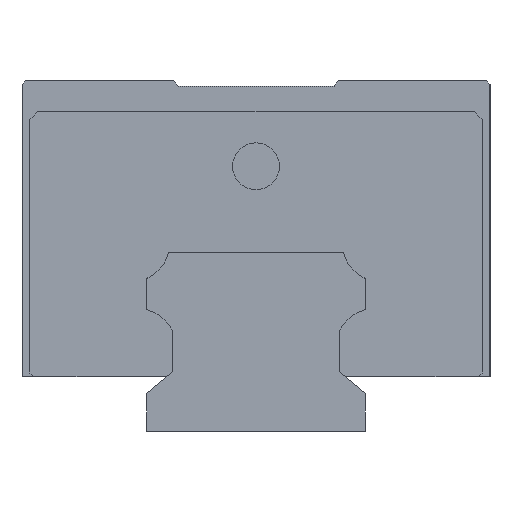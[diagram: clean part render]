
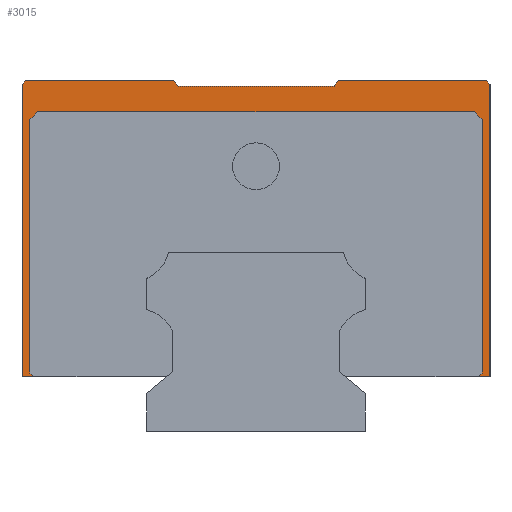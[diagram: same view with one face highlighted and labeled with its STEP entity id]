
A CAD part, left-side view. The second image highlights one B-rep face of the part: STEP entity #3015.
In plain terms, the highlighted planar face has unit normal (-1, 0, 0).
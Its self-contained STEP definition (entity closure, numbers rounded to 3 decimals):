
#2 = CARTESIAN_POINT ( 'NONE',  ( -34.65, -10., 44.25 ) ) ;
#45 = CARTESIAN_POINT ( 'NONE',  ( -34.65, -30., 44.5 ) ) ;
#93 = ORIENTED_EDGE ( 'NONE', *, *, #3689, .F. ) ;
#99 = LINE ( 'NONE', #4573, #1532 ) ;
#205 = CARTESIAN_POINT ( 'NONE',  ( -34.65, 28., 41. ) ) ;
#244 = VERTEX_POINT ( 'NONE', #2803 ) ;
#308 = LINE ( 'NONE', #1243, #2023 ) ;
#332 = ORIENTED_EDGE ( 'NONE', *, *, #2957, .T. ) ;
#348 = DIRECTION ( 'NONE',  ( 0., 1., 0. ) ) ;
#362 = CARTESIAN_POINT ( 'NONE',  ( -34.65, 10.629, 45. ) ) ;
#483 = VERTEX_POINT ( 'NONE', #3205 ) ;
#521 = VERTEX_POINT ( 'NONE', #4234 ) ;
#530 = ORIENTED_EDGE ( 'NONE', *, *, #5814, .T. ) ;
#540 = ORIENTED_EDGE ( 'NONE', *, *, #5089, .T. ) ;
#582 = LINE ( 'NONE', #2388, #3315 ) ;
#620 = EDGE_CURVE ( 'NONE', #244, #1133, #680, .T. ) ;
#632 = DIRECTION ( 'NONE',  ( 0., 0.707, -0.707 ) ) ;
#680 = LINE ( 'NONE', #710, #751 ) ;
#710 = CARTESIAN_POINT ( 'NONE',  ( -34.65, -30., 7. ) ) ;
#720 = EDGE_LOOP ( 'NONE', ( #4082, #4895, #332, #3483, #1937, #530, #3716, #3367, #770, #93, #5647, #2846, #5039, #2797, #540, #2548, #4869, #4204 ) ) ;
#751 = VECTOR ( 'NONE', #2919, 1000. ) ;
#770 = ORIENTED_EDGE ( 'NONE', *, *, #620, .F. ) ;
#809 = CARTESIAN_POINT ( 'NONE',  ( -34.65, -10.629, 45. ) ) ;
#828 = CARTESIAN_POINT ( 'NONE',  ( -34.65, 29., 7.5 ) ) ;
#836 = DIRECTION ( 'NONE',  ( 0., 0.707, -0.707 ) ) ;
#885 = VECTOR ( 'NONE', #5692, 1000. ) ;
#894 = EDGE_CURVE ( 'NONE', #3147, #1133, #5507, .T. ) ;
#947 = FACE_OUTER_BOUND ( 'NONE', #720, .T. ) ;
#969 = DIRECTION ( 'NONE',  ( 0., 0.707, 0.707 ) ) ;
#998 = VERTEX_POINT ( 'NONE', #809 ) ;
#1050 = VERTEX_POINT ( 'NONE', #5246 ) ;
#1054 = VERTEX_POINT ( 'NONE', #3899 ) ;
#1133 = VERTEX_POINT ( 'NONE', #3191 ) ;
#1243 = CARTESIAN_POINT ( 'NONE',  ( -34.65, 30., 45. ) ) ;
#1286 = CARTESIAN_POINT ( 'NONE',  ( -34.65, 28.5, 7. ) ) ;
#1356 = DIRECTION ( 'NONE',  ( 0., 0., -1. ) ) ;
#1429 = LINE ( 'NONE', #4612, #3883 ) ;
#1433 = CARTESIAN_POINT ( 'NONE',  ( -34.65, -28., 41. ) ) ;
#1484 = CARTESIAN_POINT ( 'NONE',  ( -34.65, 29., 40. ) ) ;
#1532 = VECTOR ( 'NONE', #3662, 1000. ) ;
#1937 = ORIENTED_EDGE ( 'NONE', *, *, #2223, .T. ) ;
#1943 = DIRECTION ( 'NONE',  ( 0., 1., 0. ) ) ;
#2019 = VERTEX_POINT ( 'NONE', #2179 ) ;
#2023 = VECTOR ( 'NONE', #4857, 1000. ) ;
#2099 = DIRECTION ( 'NONE',  ( 0., 0., -1. ) ) ;
#2158 = VERTEX_POINT ( 'NONE', #1433 ) ;
#2171 = CARTESIAN_POINT ( 'NONE',  ( -34.65, -29., 7.5 ) ) ;
#2179 = CARTESIAN_POINT ( 'NONE',  ( -34.65, 30., 7. ) ) ;
#2223 = EDGE_CURVE ( 'NONE', #2971, #2158, #3827, .T. ) ;
#2254 = CARTESIAN_POINT ( 'NONE',  ( -34.65, -29., 40. ) ) ;
#2361 = VERTEX_POINT ( 'NONE', #1286 ) ;
#2388 = CARTESIAN_POINT ( 'NONE',  ( -34.65, 30., 7. ) ) ;
#2504 = LINE ( 'NONE', #2566, #3962 ) ;
#2548 = ORIENTED_EDGE ( 'NONE', *, *, #5516, .F. ) ;
#2566 = CARTESIAN_POINT ( 'NONE',  ( -34.65, -30., 45. ) ) ;
#2710 = DIRECTION ( 'NONE',  ( 0., 0., 1. ) ) ;
#2797 = ORIENTED_EDGE ( 'NONE', *, *, #3728, .T. ) ;
#2803 = CARTESIAN_POINT ( 'NONE',  ( -34.65, -30., 7. ) ) ;
#2846 = ORIENTED_EDGE ( 'NONE', *, *, #5589, .F. ) ;
#2900 = LINE ( 'NONE', #3841, #3417 ) ;
#2919 = DIRECTION ( 'NONE',  ( 0., 1., 0. ) ) ;
#2926 = LINE ( 'NONE', #3267, #5010 ) ;
#2935 = VECTOR ( 'NONE', #5234, 1000. ) ;
#2957 = EDGE_CURVE ( 'NONE', #1054, #4015, #3563, .T. ) ;
#2966 = VECTOR ( 'NONE', #4566, 1000. ) ;
#2971 = VERTEX_POINT ( 'NONE', #4937 ) ;
#2997 = VERTEX_POINT ( 'NONE', #2 ) ;
#3015 = ADVANCED_FACE ( 'NONE', ( #947 ), #3213, .F. ) ;
#3051 = DIRECTION ( 'NONE',  ( 0., 0., 1. ) ) ;
#3147 = VERTEX_POINT ( 'NONE', #2171 ) ;
#3191 = CARTESIAN_POINT ( 'NONE',  ( -34.65, -28.5, 7. ) ) ;
#3205 = CARTESIAN_POINT ( 'NONE',  ( -34.65, -29., 40. ) ) ;
#3213 = PLANE ( 'NONE',  #3825 ) ;
#3244 = VERTEX_POINT ( 'NONE', #362 ) ;
#3267 = CARTESIAN_POINT ( 'NONE',  ( -34.65, -28., 41. ) ) ;
#3311 = CARTESIAN_POINT ( 'NONE',  ( -34.65, -29., 7.5 ) ) ;
#3315 = VECTOR ( 'NONE', #3051, 1000. ) ;
#3367 = ORIENTED_EDGE ( 'NONE', *, *, #894, .T. ) ;
#3417 = VECTOR ( 'NONE', #4722, 1000. ) ;
#3440 = EDGE_CURVE ( 'NONE', #998, #2997, #5590, .T. ) ;
#3455 = LINE ( 'NONE', #5245, #5295 ) ;
#3483 = ORIENTED_EDGE ( 'NONE', *, *, #5705, .T. ) ;
#3487 = CARTESIAN_POINT ( 'NONE',  ( -34.65, 30., 45. ) ) ;
#3502 = VECTOR ( 'NONE', #969, 1000. ) ;
#3563 = LINE ( 'NONE', #828, #5131 ) ;
#3662 = DIRECTION ( 'NONE',  ( 0., 0.643, 0.766 ) ) ;
#3664 = CARTESIAN_POINT ( 'NONE',  ( -34.65, -29.5, 45. ) ) ;
#3689 = EDGE_CURVE ( 'NONE', #5333, #244, #2504, .T. ) ;
#3702 = LINE ( 'NONE', #4960, #3502 ) ;
#3716 = ORIENTED_EDGE ( 'NONE', *, *, #4375, .T. ) ;
#3728 = EDGE_CURVE ( 'NONE', #2997, #521, #4352, .T. ) ;
#3825 = AXIS2_PLACEMENT_3D ( 'NONE', #5495, #4564, #1943 ) ;
#3827 = LINE ( 'NONE', #205, #5156 ) ;
#3841 = CARTESIAN_POINT ( 'NONE',  ( -34.65, -30., 44.5 ) ) ;
#3883 = VECTOR ( 'NONE', #5457, 1000. ) ;
#3899 = CARTESIAN_POINT ( 'NONE',  ( -34.65, 29., 7.5 ) ) ;
#3962 = VECTOR ( 'NONE', #2099, 1000. ) ;
#3967 = CARTESIAN_POINT ( 'NONE',  ( -34.65, -10., 44.25 ) ) ;
#3988 = CARTESIAN_POINT ( 'NONE',  ( -34.65, 30., 44.5 ) ) ;
#4015 = VERTEX_POINT ( 'NONE', #1484 ) ;
#4082 = ORIENTED_EDGE ( 'NONE', *, *, #4688, .F. ) ;
#4178 = EDGE_CURVE ( 'NONE', #2019, #5575, #582, .T. ) ;
#4204 = ORIENTED_EDGE ( 'NONE', *, *, #4178, .F. ) ;
#4234 = CARTESIAN_POINT ( 'NONE',  ( -34.65, 10., 44.25 ) ) ;
#4352 = LINE ( 'NONE', #3967, #4614 ) ;
#4375 = EDGE_CURVE ( 'NONE', #483, #3147, #5436, .T. ) ;
#4564 = DIRECTION ( 'NONE',  ( 1., 0., 0. ) ) ;
#4566 = DIRECTION ( 'NONE',  ( 0., -0.707, 0.707 ) ) ;
#4573 = CARTESIAN_POINT ( 'NONE',  ( -34.65, 10., 44.25 ) ) ;
#4612 = CARTESIAN_POINT ( 'NONE',  ( -34.65, 11.769, 7. ) ) ;
#4614 = VECTOR ( 'NONE', #348, 1000. ) ;
#4653 = DIRECTION ( 'NONE',  ( 0., -0.707, -0.707 ) ) ;
#4688 = EDGE_CURVE ( 'NONE', #2361, #2019, #1429, .T. ) ;
#4708 = DIRECTION ( 'NONE',  ( 0., -1., 0. ) ) ;
#4722 = DIRECTION ( 'NONE',  ( 0., 0.707, 0.707 ) ) ;
#4777 = EDGE_CURVE ( 'NONE', #2361, #1054, #3702, .T. ) ;
#4857 = DIRECTION ( 'NONE',  ( 0., -1., 0. ) ) ;
#4869 = ORIENTED_EDGE ( 'NONE', *, *, #5599, .T. ) ;
#4895 = ORIENTED_EDGE ( 'NONE', *, *, #4777, .T. ) ;
#4937 = CARTESIAN_POINT ( 'NONE',  ( -34.65, 28., 41. ) ) ;
#4944 = CARTESIAN_POINT ( 'NONE',  ( -34.65, 29., 40. ) ) ;
#4960 = CARTESIAN_POINT ( 'NONE',  ( -34.65, 28.5, 7. ) ) ;
#5010 = VECTOR ( 'NONE', #4653, 1000. ) ;
#5039 = ORIENTED_EDGE ( 'NONE', *, *, #3440, .T. ) ;
#5064 = VERTEX_POINT ( 'NONE', #3664 ) ;
#5089 = EDGE_CURVE ( 'NONE', #521, #3244, #99, .T. ) ;
#5131 = VECTOR ( 'NONE', #2710, 1000. ) ;
#5156 = VECTOR ( 'NONE', #4708, 1000. ) ;
#5234 = DIRECTION ( 'NONE',  ( 0., 0.643, -0.766 ) ) ;
#5245 = CARTESIAN_POINT ( 'NONE',  ( -34.65, 29.5, 45. ) ) ;
#5246 = CARTESIAN_POINT ( 'NONE',  ( -34.65, 29.5, 45. ) ) ;
#5252 = VECTOR ( 'NONE', #632, 1000. ) ;
#5266 = CARTESIAN_POINT ( 'NONE',  ( -34.65, -10.629, 45. ) ) ;
#5295 = VECTOR ( 'NONE', #836, 1000. ) ;
#5333 = VERTEX_POINT ( 'NONE', #45 ) ;
#5345 = EDGE_CURVE ( 'NONE', #5333, #5064, #2900, .T. ) ;
#5386 = LINE ( 'NONE', #4944, #2966 ) ;
#5436 = LINE ( 'NONE', #2254, #5658 ) ;
#5457 = DIRECTION ( 'NONE',  ( 0., 1., 0. ) ) ;
#5495 = CARTESIAN_POINT ( 'NONE',  ( -34.65, -30., 45. ) ) ;
#5507 = LINE ( 'NONE', #3311, #5252 ) ;
#5516 = EDGE_CURVE ( 'NONE', #1050, #3244, #5751, .T. ) ;
#5575 = VERTEX_POINT ( 'NONE', #3988 ) ;
#5589 = EDGE_CURVE ( 'NONE', #998, #5064, #308, .T. ) ;
#5590 = LINE ( 'NONE', #5266, #2935 ) ;
#5599 = EDGE_CURVE ( 'NONE', #1050, #5575, #3455, .T. ) ;
#5647 = ORIENTED_EDGE ( 'NONE', *, *, #5345, .T. ) ;
#5658 = VECTOR ( 'NONE', #1356, 1000. ) ;
#5692 = DIRECTION ( 'NONE',  ( 0., -1., 0. ) ) ;
#5705 = EDGE_CURVE ( 'NONE', #4015, #2971, #5386, .T. ) ;
#5751 = LINE ( 'NONE', #3487, #885 ) ;
#5814 = EDGE_CURVE ( 'NONE', #2158, #483, #2926, .T. ) ;
